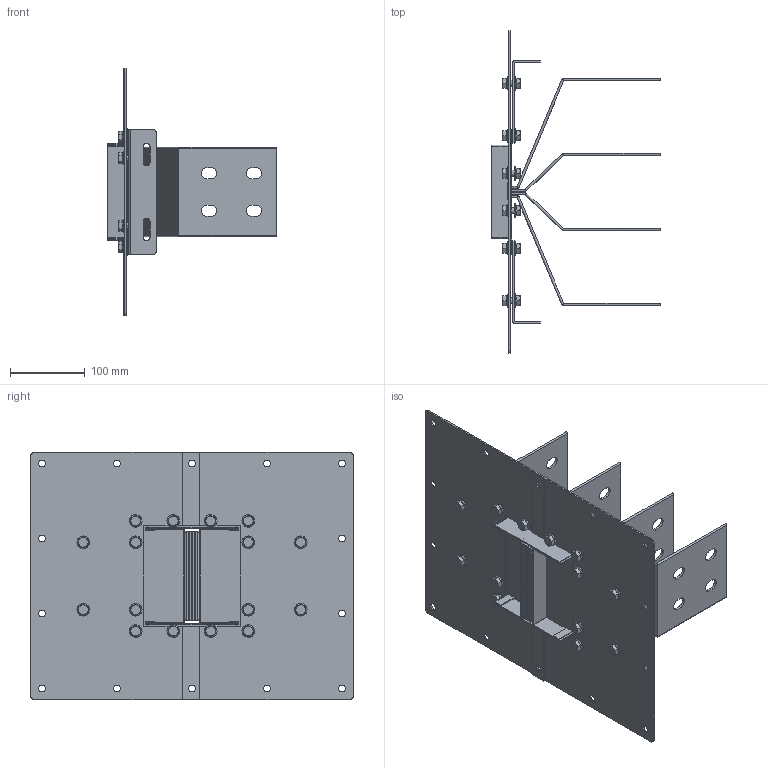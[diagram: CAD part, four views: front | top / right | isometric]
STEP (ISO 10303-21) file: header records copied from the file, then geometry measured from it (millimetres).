
FILE_DESCRIPTION(('CATIA V5 STEP','CAx-IF Rec.Pracs.--- Model Styling and Organization---1.5--- 2016-08-15','CAx-IF Rec.Pracs.---Supplemental Geometry---1.0---2011-11-01','CAx-IF Rec.Pracs.--- Composite Materials ---1.1---2010-07-15'),'2;1');
FILE_NAME('K:\COSCN 2011\32372311_RiduzioneSezioniBarre\03_Studio\__Modelli semplificati\XCP_UB semplificati per studi\XCP-HP_UB_4C_Pe_STD_Assieme\Cu\XCP-HP_UB_4C_Pe_S_Assieme - 1000A Cu\XCP-HP_UB_4C_Pe_S_Assieme - 1000A Cu.stp','2025-05-12T11:39:58+00:00',('Utente Bticino'),('Bticino S.p.A.'),'CATIA Version 5-6 Release 2020 SP5','CATIA V5 STEP AP214 v2','none');
FILE_SCHEMA(('AUTOMOTIVE_DESIGN { 1 0 10303 214 1 1 1 1 }'));
Length unit declared in the file: millimetre
Products named in the file (7): XCP-HP_UB_4C_Pe_S_Assieme - 1000A Cu; XCP-HP_UB_4C_Pe_S_PaccoBarre_1000A Cu; XCP-HP_UB_4C_Pe_S_Lamiere_1000A Cu; Viteria UB H130; Ass Vite+dado M8; Steel hex flanged SCREW M12x16; Steel hex flanged NUT M8
Assembly tree (21 placements, depth 4):
  XCP-HP_UB_4C_Pe_S_Assieme - 1000A Cu
    XCP-HP_UB_4C_Pe_S_PaccoBarre_1000A Cu
    XCP-HP_UB_4C_Pe_S_Lamiere_1000A Cu
    Viteria UB H130
      Ass Vite+dado M8  x16
        Steel hex flanged SCREW M12x16
        Steel hex flanged NUT M8
Bounding box: 225 x 430 x 330 mm (x, y, z)
Volume: 895462.8 mm3; surface area: 754664.5 mm2
Topology: 44 solids, 44 shells, 1148 faces, 2820 edges, 1792 vertices
Faces by surface type: plane 480, cylinder 380, cone 128, bspline 128, torus 32
Entity records: 14919 total; most frequent: CARTESIAN_POINT 3460, ORIENTED_EDGE 2460, DIRECTION 1928, EDGE_CURVE 1230, AXIS2_PLACEMENT_3D 818, VERTEX_POINT 802, VECTOR 728, LINE 728
